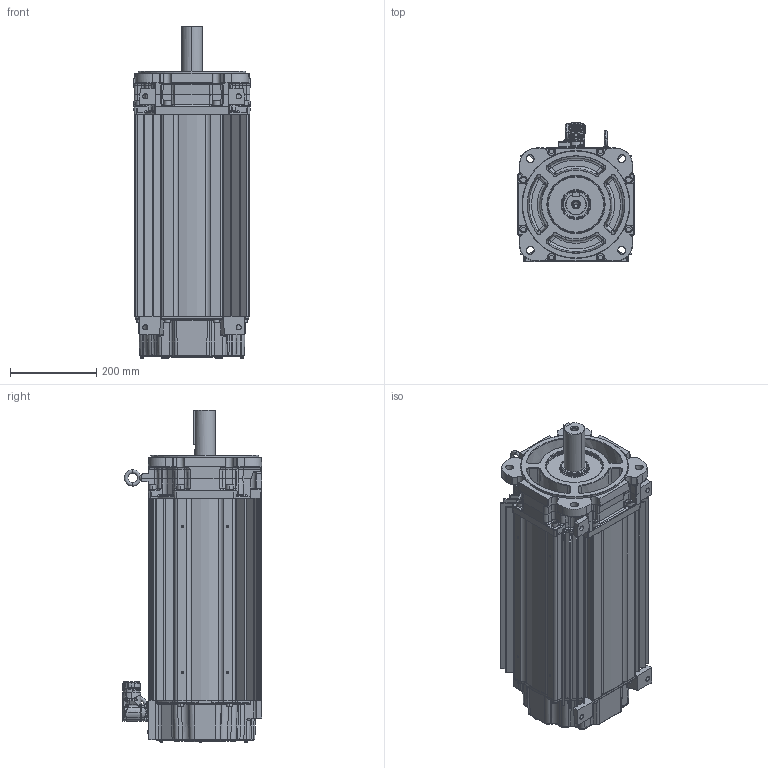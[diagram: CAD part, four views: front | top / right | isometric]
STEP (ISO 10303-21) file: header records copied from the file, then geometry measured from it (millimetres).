
FILE_DESCRIPTION((''),'2;1');
FILE_NAME('10001442216_ASM','2020-01-16T12:25:38',('VThimma'),('Rockwell Automation'),'CREO PARAMETRIC BY PTC INC, 2017380','CREO PARAMETRIC BY PTC INC, 2017380','');
FILE_SCHEMA(('CONFIG_CONTROL_DESIGN','SHAPE_APPEARANCE_LAYERS_GROUPS'));
Products named in the file (21): 10001441960; 10001404634_AF0; 10001404629_AF6; 10001404635_ASM; 10001585735; 10001442014_ASM; 10001439812; 10001440033_ASM; 10001405269_AF27; 10001405369_ASM; 10001586887; 0002-5004; 10001609981; 10001737030; 10000801000; 10000801001; 10000801002_ASM; 221404-Q12; 10001408124; 0011-2084; 10001442216_ASM
Assembly tree (43 placements, depth 4):
  10001442216_ASM
    10001442014_ASM
      10001441960
      10001404635_ASM
        10001404634_AF0
        10001404629_AF6
      10001585735  x8
    10001440033_ASM
      10001439812
    10001405369_ASM
      10001405269_AF27
    10001586887  x7
    0002-5004  x2
    10001609981
    10001737030
    10000801002_ASM
      10000801000
      10000801001
    221404-Q12  x10
    10001408124
    0011-2084
Bounding box: 269.49 x 324.1 x 768.83 mm (x, y, z)
Surface area: 2442243.4 mm2 (no closed solid volume)
Topology: 0 solids, 41 shells, 4494 faces, 11189 edges, 6839 vertices
Faces by surface type: cylinder 1439, plane 1240, bspline 755, torus 547, cone 442, sphere 64, extrusion 7
Entity records: 185578 total; most frequent: CARTESIAN_POINT 54087, ORIENTED_EDGE 17440, DIRECTION 16364, PRESENTATION_STYLE_ASSIGNMENT 12192, STYLED_ITEM 12192, CURVE_STYLE 8731, EDGE_CURVE 8724, AXIS2_PLACEMENT_3D 6420
